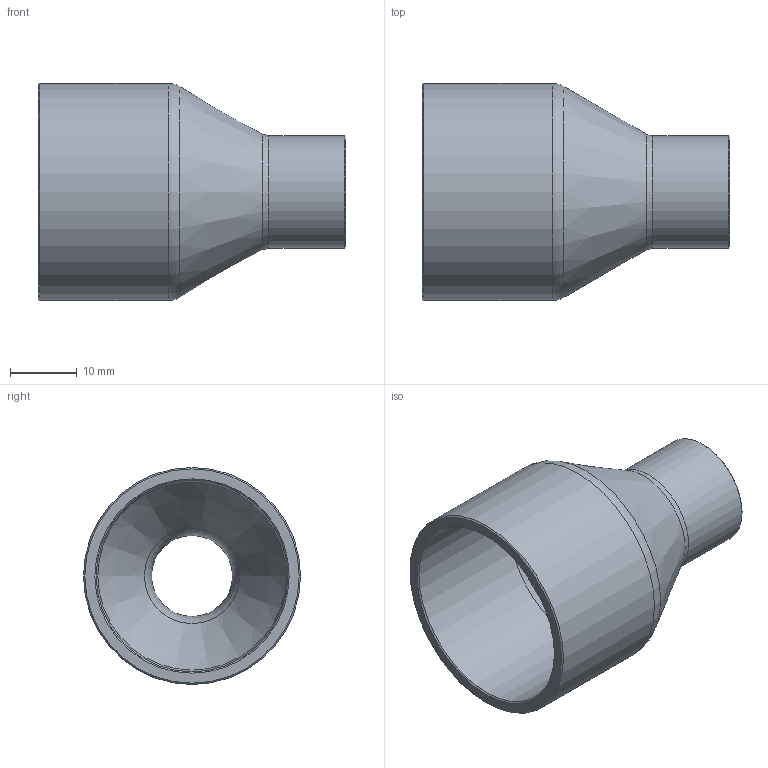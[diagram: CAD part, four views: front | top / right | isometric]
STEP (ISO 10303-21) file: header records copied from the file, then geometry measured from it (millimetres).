
FILE_DESCRIPTION((''),'2;1');
FILE_NAME('G:\SANHA-Ternat\Technik\Management\Bouwmaten + markeringen\z-maattekeningen 3D\29000s\2924011812_3d.stp','2017-08-04T10:33:10',('vdvijverd'),(''),'Autodesk Inventor 2009','Autodesk Inventor 2009','');
FILE_SCHEMA(('AUTOMOTIVE_DESIGN { 1 0 10303 214 1 1 1 1 }'));
Length unit declared in the file: millimetre
Products named in the file (1): 2924011812_3d
Bounding box: 46.1 x 32.52 x 32.52 mm (x, y, z)
Volume: 7457.7 mm3; surface area: 7472.8 mm2
Topology: 1 solids, 1 shells, 17 faces, 32 edges, 17 vertices
Faces by surface type: cone 6, cylinder 4, bspline 3, plane 2, torus 2
Full cylindrical faces by diameter (mm): 12.82 x1, 16.82 x1, 28.725 x1, 32.525 x1
Entity records: 494 total; most frequent: CARTESIAN_POINT 184, DIRECTION 64, ORIENTED_EDGE 34, EDGE_LOOP 34, AXIS2_PLACEMENT_3D 32, VERTEX_POINT 17, CIRCLE 17, EDGE_CURVE 17
